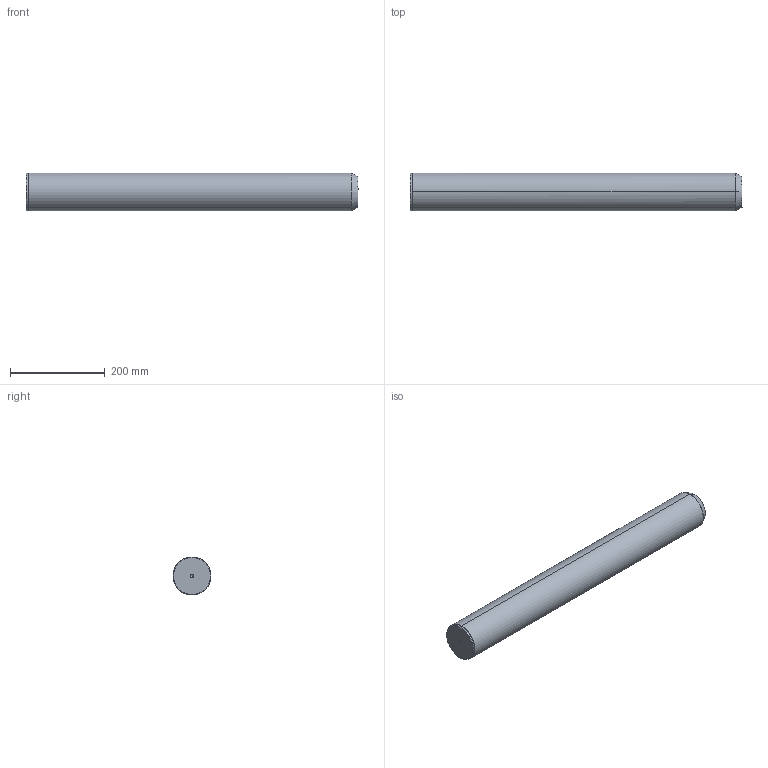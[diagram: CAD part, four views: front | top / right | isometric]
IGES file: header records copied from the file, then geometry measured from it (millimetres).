
Start section: START RECORD GO HERE.
Global section: file name: 720-80x700.igs; native system: DASSAULT SYSTEMES CATIA V5 R20 - www.3ds.com; preprocessor: CATIA Version 5 Release 20 ; author: Utente; organization: NB04-ASUS; date: 20201230.221732; units: millimetre
Bounding box: 700 x 80 x 80 mm (x, y, z)
Surface area: 184958.6 mm2 (no closed solid volume)
Topology: 0 solids, 0 shells, 26 faces, 160 edges, 156 vertices
Faces by surface type: revolution 20, plane 4, bspline 2
